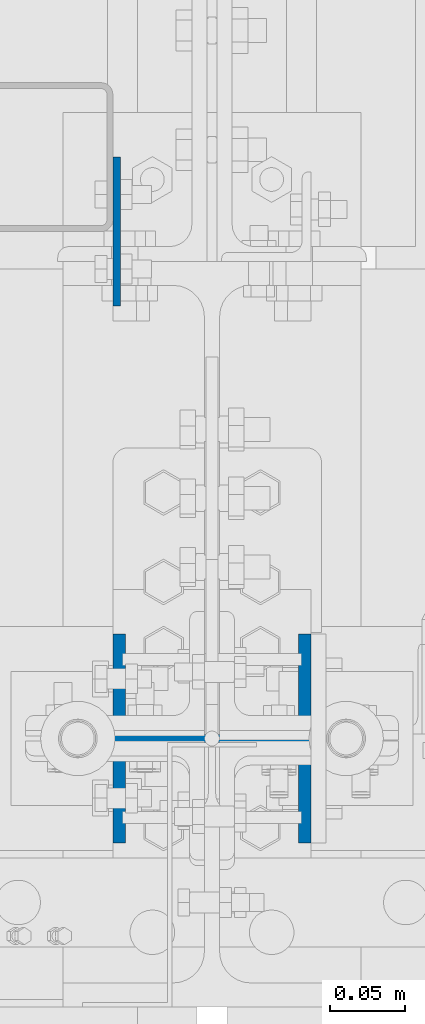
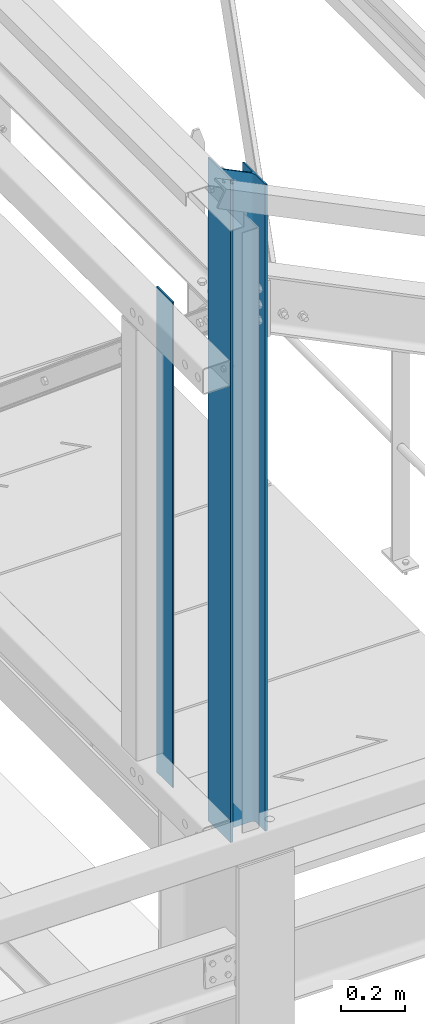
# One storey, part 15 of 362: 2 columns, 2 elements without a shape of their own.
"""IFC2X3 building model written with IfcOpenShell, lengths in millimetres."""

import ifcopenshell
import ifcopenshell.guid

model = None  # the IFC model being written
_history = None  # IfcOwnerHistory: only IFC2X3 demands one
_inside = {}  # id of a spatial element -> (the spatial element, [elements in it])
_under = {}  # id of a project, library or spatial element -> (it, [spatial elements below it])
_declared = {}  # id of a project -> (the project, [libraries it declares])
_typed = {}  # id of a type object -> (the type object, [elements of that type])
_made_of = {}  # id of a material, layer set ... -> (it, [elements and type objects made of it])


def new_model(schema):
    """Start an empty IFC model of exactly this schema.

    Asked for "IFC4X3", IfcOpenShell would pick the latest addendum, in which some entities
    have other attributes; the version numbers below select the first issue.
    IFC2X3 requires an IfcOwnerHistory on every rooted entity: one is made here for all.
    """
    global model, _history
    if schema == "IFC4X3":
        model = ifcopenshell.file(schema_version=(4, 3, 0, 0))
    else:
        model = ifcopenshell.file(schema=schema)
    _inside.clear()
    _under.clear()
    _declared.clear()
    _typed.clear()
    _made_of.clear()
    _history = None
    if model.schema == "IFC2X3":
        org = make("IfcOrganization", Name="unknown")
        user = make(
            "IfcPersonAndOrganization",
            ThePerson=make("IfcPerson", FamilyName="unknown"),
            TheOrganization=org,
        )
        app = make(
            "IfcApplication",
            ApplicationDeveloper=org,
            Version="unknown",
            ApplicationFullName="unknown",
            ApplicationIdentifier="unknown",
        )
        _history = make(
            "IfcOwnerHistory",
            OwningUser=user,
            OwningApplication=app,
            ChangeAction="ADDED",
            CreationDate=0,
        )
    return model


def make(cls, **values):
    """One entity of the class cls with the attributes given. An attribute that is None is left unset."""
    return model.create_entity(
        cls, **{name: value for name, value in values.items() if value is not None}
    )


def rooted(cls, **values):
    """An entity with a GlobalId (a new one), such as an element, a storey or a relation."""
    return make(cls, GlobalId=ifcopenshell.guid.new(), OwnerHistory=_history, **values)


def si_unit(unit_type, name, prefix=None):
    """IfcSIUnit, for example si_unit("LENGTHUNIT", "METRE", prefix="MILLI")."""
    return make("IfcSIUnit", UnitType=unit_type, Prefix=prefix, Name=name)


def assignment(units):
    """IfcUnitAssignment: the units of a project."""
    return None if units is None else make("IfcUnitAssignment", Units=units)


def point(xyz):
    """IfcCartesianPoint."""
    return None if xyz is None else make("IfcCartesianPoint", Coordinates=xyz)


def direction(xyz):
    """IfcDirection."""
    return None if xyz is None else make("IfcDirection", DirectionRatios=xyz)


def frame(location, z_axis=None, x_axis=None):
    """IfcAxis2Placement3D, a coordinate frame: its origin and axes. An axis left out is left unset."""
    return make(
        "IfcAxis2Placement3D",
        Location=point(location),
        Axis=direction(z_axis),
        RefDirection=direction(x_axis),
    )


def frame_2d(location, x_axis=None):
    """IfcAxis2Placement2D, a coordinate frame in the plane: its origin and x axis."""
    return make(
        "IfcAxis2Placement2D", Location=point(location), RefDirection=direction(x_axis)
    )


def origin_with_axes():
    """The frame at (0, 0, 0) with the z axis (0, 0, 1) and the x axis (1, 0, 0) written out."""
    return frame((0.0, 0.0, 0.0), z_axis=(0.0, 0.0, 1.0), x_axis=(1.0, 0.0, 0.0))


def origin_2d_with_axis():
    """The frame at (0, 0) in the plane with the x axis (1, 0) written out."""
    return frame_2d((0.0, 0.0), x_axis=(1.0, 0.0))


def place(relative_to, where):
    """IfcLocalPlacement: puts the frame where relative to a parent placement (None: the world)."""
    return make(
        "IfcLocalPlacement", PlacementRelTo=relative_to, RelativePlacement=where
    )


def context(
    kind, dimensions, precision=None, world=None, true_north=None, identifier=None
):
    """IfcGeometricRepresentationContext, for example the 3D "Model" context."""
    return make(
        "IfcGeometricRepresentationContext",
        ContextIdentifier=identifier,
        ContextType=kind,
        CoordinateSpaceDimension=dimensions,
        Precision=precision,
        WorldCoordinateSystem=world,
        TrueNorth=true_north,
    )


def subcontext(parent, identifier, kind, view, scale=None):
    """IfcGeometricRepresentationSubContext, for example "Body" below "Model"."""
    return make(
        "IfcGeometricRepresentationSubContext",
        ContextIdentifier=identifier,
        ContextType=kind,
        ParentContext=parent,
        TargetScale=scale,
        TargetView=view,
    )


def project(units=None, contexts=None):
    """IfcProject with its units and contexts."""
    return rooted(
        "IfcProject",
        Name="project",
        RepresentationContexts=contexts,
        UnitsInContext=assignment(units),
    )


def spatial(cls, under=None, at=None, **own):
    """A site, building, storey or space (cls), placed at a placement, below another one or the project."""
    s = rooted(cls, ObjectPlacement=at, **own)
    if under is not None:
        _under.setdefault(under.id(), (under, []))[1].append(s)
    return s


def profile(cls, at=None, kind="AREA", **sizes):
    """A parametric profile (cls). Its sizes go by their IFC names, for example OverallWidth=200.0."""
    return make(cls, ProfileType=kind, Position=at, **sizes)


def rectangle(**sizes):
    """IfcRectangleProfileDef."""
    return profile("IfcRectangleProfileDef", **sizes)


def i_section(**sizes):
    """IfcIShapeProfileDef."""
    return profile("IfcIShapeProfileDef", **sizes)


def extrude(swept, where, along, depth):
    """IfcExtrudedAreaSolid: the profile swept, set in the frame where, extruded along a direction by depth."""
    return make(
        "IfcExtrudedAreaSolid",
        SweptArea=swept,
        Position=where,
        ExtrudedDirection=direction(along),
        Depth=depth,
    )


def clip(a, b, op="DIFFERENCE"):
    """IfcBooleanClippingResult: the solid a cut by the half space b."""
    return make(
        "IfcBooleanClippingResult", Operator=op, FirstOperand=a, SecondOperand=b
    )


def halfspace(plane, agree):
    """IfcHalfSpaceSolid: all space on one side of the plane z = 0 of the frame plane."""
    return make(
        "IfcHalfSpaceSolid",
        BaseSurface=make("IfcPlane", Position=plane),
        AgreementFlag=agree,
    )


def shape(context_of_items, identifier, shape_type, items):
    """IfcShapeRepresentation: the items that make up one representation, for example the "Body"."""
    return make(
        "IfcShapeRepresentation",
        ContextOfItems=context_of_items,
        RepresentationIdentifier=identifier,
        RepresentationType=shape_type,
        Items=items,
    )


def material(Name=None, Category=None):
    """IfcMaterial."""
    return make("IfcMaterial", Name=Name, Category=Category)


def made_of(thing, what):
    """Note that an element or type object is made of a material, layer set ...; save() writes the relation."""
    if what is not None:
        _made_of.setdefault(what.id(), (what, []))[1].append(thing)
    return thing


def type_object(cls, material=None, **own):
    """A type object (cls), such as IfcWallType, which elements share."""
    return made_of(rooted(cls, **own), material)


def element(
    cls,
    number,
    at=None,
    inside=None,
    cuts=None,
    type_object=None,
    material=None,
    context=None,
    identifier="Body",
    shape_type=None,
    held_by="IfcProductDefinitionShape",
    body=None,
    shapes=None,
    **own,
):
    """One element of the class cls, such as IfcWall. Its Tag is "e" and its number.

    at: its placement. inside: the storey or other place that contains it. cuts: it is an
    opening in that element (IfcRelVoidsElement). A single representation is given by context,
    identifier, shape_type and body (its items); several are given by shapes. held_by: the class
    of the entity that holds the representations. save() writes the other relations.
    """
    e = rooted(cls, Tag="e%d" % number, ObjectPlacement=at, **own)
    if body is not None:
        shapes = [shape(context, identifier, shape_type, body)]
    if shapes is not None:
        e.Representation = make(held_by, Representations=shapes)
    if inside is not None:
        _inside.setdefault(inside.id(), (inside, []))[1].append(e)
    if cuts is not None:
        rooted(
            "IfcRelVoidsElement", RelatingBuildingElement=cuts, RelatedOpeningElement=e
        )
    if type_object is not None:
        _typed.setdefault(type_object.id(), (type_object, []))[1].append(e)
    return made_of(e, material)


def aggregate(whole, parts):
    """IfcRelAggregates: a whole, such as a stair, and the parts it consists of."""
    return rooted("IfcRelAggregates", RelatingObject=whole, RelatedObjects=parts)


def save(model, path):
    """Write the relations noted so far, then the file.

    IfcRelAggregates (storeys below a building ...), IfcRelContainedInSpatialStructure (elements
    in a storey), IfcRelDefinesByType, IfcRelAssociatesMaterial and IfcRelDeclares: one each for
    every whole, place, type object, material and project.
    """
    for whole, parts in _under.values():
        aggregate(whole, parts)
    for where, things in _inside.values():
        rooted(
            "IfcRelContainedInSpatialStructure",
            RelatedElements=things,
            RelatingStructure=where,
        )
    for kind, things in _typed.values():
        rooted("IfcRelDefinesByType", RelatedObjects=things, RelatingType=kind)
    for what, things in _made_of.values():
        rooted("IfcRelAssociatesMaterial", RelatedObjects=things, RelatingMaterial=what)
    for by, libraries in _declared.values():
        rooted("IfcRelDeclares", RelatingContext=by, RelatedDefinitions=libraries)
    model.write(path)


model = new_model("IFC2X3")

# Units and contexts
model_context = context("Model", 3, precision=1e-05, world=origin_with_axes())
body_context = subcontext(model_context, "Body", "Model", "MODEL_VIEW")
ifc_project = project(units=[si_unit("LENGTHUNIT", "METRE", prefix="MILLI"), si_unit("AREAUNIT", "SQUARE_METRE"), si_unit("VOLUMEUNIT", "CUBIC_METRE"), si_unit("MASSUNIT", "GRAM", prefix="KILO"), si_unit("TIMEUNIT", "SECOND"), si_unit("PLANEANGLEUNIT", "RADIAN"), si_unit("SOLIDANGLEUNIT", "STERADIAN"), si_unit("THERMODYNAMICTEMPERATUREUNIT", "DEGREE_CELSIUS"), si_unit("LUMINOUSINTENSITYUNIT", "LUMEN")], contexts=[model_context])

# Site, building, storey
site_placement = place(None, origin_with_axes())
site = spatial("IfcSite", under=ifc_project, at=site_placement, Name="Undefined", CompositionType="ELEMENT")
building_placement = place(site_placement, origin_with_axes())
building = spatial("IfcBuilding", under=site, at=building_placement, Name="Undefined", CompositionType="ELEMENT")
storey_placement = place(building_placement, origin_with_axes())
storey = spatial("IfcBuildingStorey", under=building, at=storey_placement, Name="Undefined", CompositionType="ELEMENT", Elevation=0.0)

# Assembly, column
assembly_1_placement = place(storey_placement, origin_with_axes())
assembly_1 = element("IfcElementAssembly", 1, at=assembly_1_placement, inside=storey, Name="MONTANT", AssemblyPlace="NOTDEFINED", PredefinedType="NOTDEFINED")
ifc_material_1 = material(Name="Undefined/S275-E28")
column_type_1 = type_object("IfcColumnType", Name="HEA140", PredefinedType="NOTDEFINED")
column_1_placement = place(assembly_1_placement, frame((34280.0, 0.0, 8460.0), z_axis=(0.0, 0.0, 1.0), x_axis=(-1.0, 0.0, 0.0)))
column_1 = element("IfcColumn", 2, at=column_1_placement, type_object=column_type_1, material=ifc_material_1, Name="MONTANT", ObjectType="HEA140", context=body_context, shape_type="Clipping", body=[
    clip(extrude(i_section(OverallWidth=140.0, OverallDepth=133.0, WebThickness=5.5, FlangeThickness=8.5, FilletRadius=12.0, at=origin_2d_with_axis()), frame((0.0, 0.0, 2530.84), z_axis=(0.0, 0.0, -1.0), x_axis=(0.0, 1.0, 0.0)), (0.0, 0.0, 1.0), 2530.84), halfspace(frame((-66.5, 69.9999999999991, 2454.3071165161), z_axis=(-0.441220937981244, -6.28179308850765e-09, 0.89739850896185), x_axis=(0.89739850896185, 0.0, 0.441220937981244)), False)),
])
aggregate(assembly_1, [column_1])

assembly_2_placement = place(storey_placement, origin_with_axes())
assembly_2 = element("IfcElementAssembly", 3, at=assembly_2_placement, inside=storey, Name="MONTANT", AssemblyPlace="NOTDEFINED", PredefinedType="NOTDEFINED")
ifc_material_2 = material(Name="Undefined/S235-E24")
column_type_2 = type_object("IfcColumnType", Name="PL100*5", PredefinedType="NOTDEFINED")
column_2_placement = place(assembly_2_placement, frame((34215.9999999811, 340.000158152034, 8450.0), z_axis=(0.0, 0.0, 1.0), x_axis=(0.0, -1.0, 0.0)))
column_2 = element("IfcColumn", 4, at=column_2_placement, type_object=column_type_2, material=ifc_material_2, Name="FEUILLURE", ObjectType="PL100*5", context=body_context, shape_type="SweptSolid", body=[
    extrude(rectangle(XDim=5.0, YDim=100.0, at=origin_2d_with_axis()), frame((0.0, 0.0, 1845.0), z_axis=(0.0, 0.0, -1.0), x_axis=(0.0, 1.0, 0.0)), (0.0, 0.0, 1.0), 1845.0),
])
aggregate(assembly_2, [column_2])

save(model, "model.ifc")
